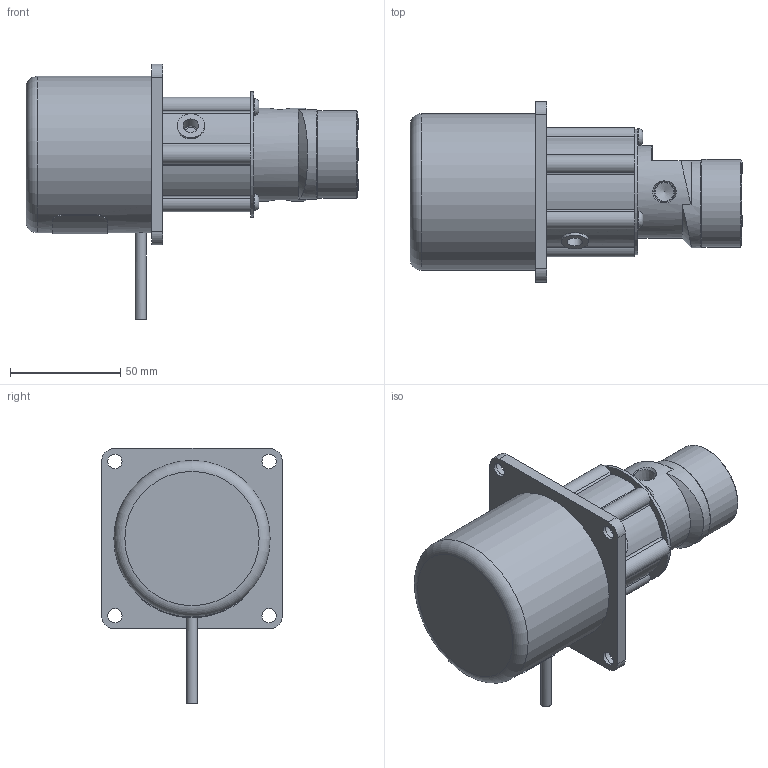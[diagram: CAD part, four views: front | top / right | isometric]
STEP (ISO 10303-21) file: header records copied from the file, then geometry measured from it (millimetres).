
FILE_DESCRIPTION (( 'STEP AP214' ), '1' );
FILE_NAME ('PD06-PM-0.STEP', '2017-03-03T21:32:55', ( '' ), ( '' ), 'SwSTEP 2.0', 'SolidWorks 2015', '' );
FILE_SCHEMA (( 'AUTOMOTIVE_DESIGN' ));
Length unit declared in the file: millimetre
Products named in the file (16): PD03-EP-0; PD06-BO-0; PD06-BB-0; bb0018^PD06-BB-0; PD03-CU-0; PD03-FL-0; PD03-SC-0; PD03-MA-0; PG0002; PD03-MB-0; MB0055^PD03-MB-0; PD03-MO-0_label; PD06-PM-0; PD03-SC-3; PD06-PU-0; PD03-SC-1
Assembly tree (24 placements, depth 5):
  PD06-PM-0
    PD03-MA-0
      PD03-MO-0_label
      PD03-MB-0
        MB0055^PD03-MB-0
      PG0002
    PD06-PU-0
      PD03-SC-0  x6
      PD03-FL-0
      PD03-CU-0
      PD06-BO-0
        PD06-BB-0
          bb0018^PD06-BB-0
      PD03-EP-0
      PD03-SC-1  x3
    PD03-SC-3  x3
Bounding box: 150.75 x 82 x 116 mm (x, y, z)
Volume: 356352 mm3; surface area: 70106.6 mm2
Topology: 19 solids, 19 shells, 249 faces, 551 edges, 363 vertices
Faces by surface type: cylinder 106, plane 103, cone 22, torus 18
Full cylindrical faces by diameter (mm): 3.2 x9, 3.3 x3, 4 x3, 4.2 x3, 5 x1, 5.5 x9, 5.989 x1, 6 x3, 6.5 x4, 7 x1, 7.6 x3, 8 x1, 8.433 x2, 8.5 x1, 10 x4, 12.5 x1, 27.1 x1, 27.14 x1, 28 x2, 29.8 x2, 31 x1, 39.75 x1, 42.25 x1, 57 x1, 71 x1
Entity records: 6983 total; most frequent: CARTESIAN_POINT 1547, DIRECTION 1072, ORIENTED_EDGE 794, AXIS2_PLACEMENT_3D 457, EDGE_CURVE 397, EDGE_LOOP 357, VERTEX_POINT 306, FACE_OUTER_BOUND 266
